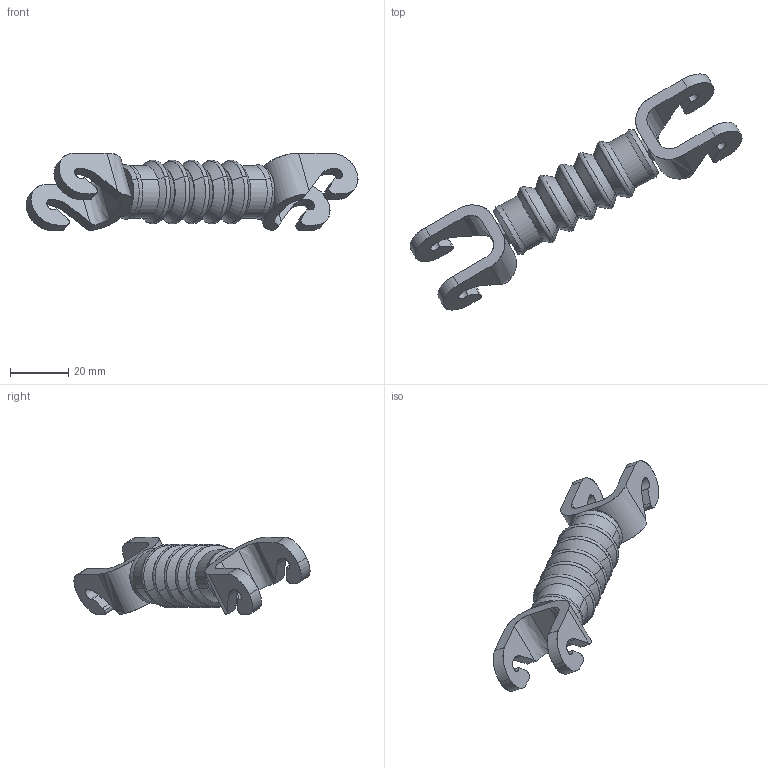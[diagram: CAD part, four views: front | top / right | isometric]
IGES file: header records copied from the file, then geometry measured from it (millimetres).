
Start section: SolidWorks IGES file using analytic representation for surfaces
Global section: file name: C:\Users\SELUHAA\Desktop\Work items\545792\IGES\IRB360_X-800-STD-4D_rev03_IGES_J\IRB360_X-800-STD-4D_rev03_LA3_CL_CAD.IGS; native system: SolidWorks 2022; preprocessor: SolidWorks 2022; author: SELUHAA; date: 231128.112915; units: millimetre
Bounding box: 114.08 x 81.13 x 26.65 mm (x, y, z)
Surface area: 10290.8 mm2 (no closed solid volume)
Topology: 0 solids, 0 shells, 134 faces, 1216 edges, 1216 vertices
Faces by surface type: bspline 68, revolution 66
